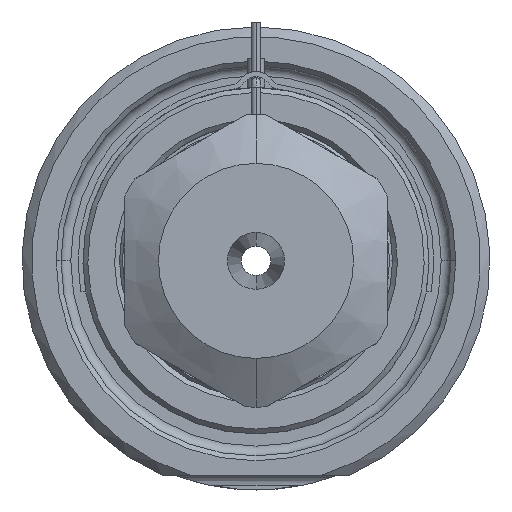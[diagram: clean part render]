
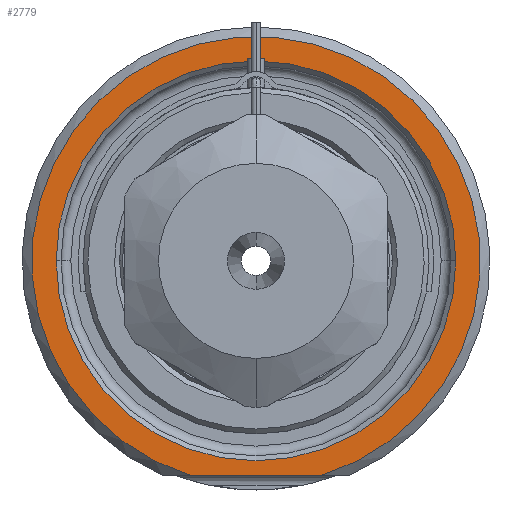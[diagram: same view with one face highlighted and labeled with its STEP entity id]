
A CAD part, front view. The second image highlights one B-rep face of the part: STEP entity #2779.
In plain terms, the highlighted planar face has unit normal (0, -1, 0).
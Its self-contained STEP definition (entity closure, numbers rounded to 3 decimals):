
#1=DIRECTION('',(1.,0.,0.));
#2=VECTOR('',#1,13.416);
#3=CARTESIAN_POINT('',(-6.708,0.,-22.));
#4=LINE('',#3,#2);
#5=CARTESIAN_POINT('',(0.,0.,0.));
#6=DIRECTION('',(0.,1.,0.));
#7=DIRECTION('',(-1.,0.,0.));
#8=AXIS2_PLACEMENT_3D('',#5,#6,#7);
#10=CARTESIAN_POINT('',(0.,0.,0.));
#11=DIRECTION('',(0.,1.,0.));
#12=DIRECTION('',(1.,0.,0.));
#13=AXIS2_PLACEMENT_3D('',#10,#11,#12);
#121=CARTESIAN_POINT('',(0.,0.,0.));
#122=DIRECTION('',(0.,-1.,0.));
#123=DIRECTION('',(0.292,0.,-0.957));
#124=AXIS2_PLACEMENT_3D('',#121,#122,#123);
#2303=CARTESIAN_POINT('',(-20.5,0.,0.));
#2304=CARTESIAN_POINT('',(20.5,0.,0.));
#2305=VERTEX_POINT('',#2303);
#2306=VERTEX_POINT('',#2304);
#2343=CARTESIAN_POINT('',(-6.708,0.,-22.));
#2344=CARTESIAN_POINT('',(6.708,0.,-22.));
#2345=VERTEX_POINT('',#2343);
#2346=VERTEX_POINT('',#2344);
#2762=CARTESIAN_POINT('',(0.,0.,0.));
#2763=DIRECTION('',(0.,-1.,0.));
#2764=DIRECTION('',(1.,0.,0.));
#2765=AXIS2_PLACEMENT_3D('',#2762,#2763,#2764);
#2766=PLANE('',#2765);
#2768=ORIENTED_EDGE('',*,*,#2767,.F.);
#2770=ORIENTED_EDGE('',*,*,#2769,.F.);
#2771=EDGE_LOOP('',(#2768,#2770));
#2772=FACE_OUTER_BOUND('',#2771,.F.);
#2774=ORIENTED_EDGE('',*,*,#2773,.F.);
#2776=ORIENTED_EDGE('',*,*,#2775,.F.);
#2777=EDGE_LOOP('',(#2774,#2776));
#2778=FACE_BOUND('',#2777,.F.);
#2779=ADVANCED_FACE('',(#2772,#2778),#2766,.T.);
#9=CIRCLE('',#8,20.5);
#14=CIRCLE('',#13,20.5);
#125=CIRCLE('',#124,23.);
#2767=EDGE_CURVE('',#2345,#2346,#4,.T.);
#2769=EDGE_CURVE('',#2346,#2345,#125,.T.);
#2773=EDGE_CURVE('',#2305,#2306,#9,.T.);
#2775=EDGE_CURVE('',#2306,#2305,#14,.T.);
